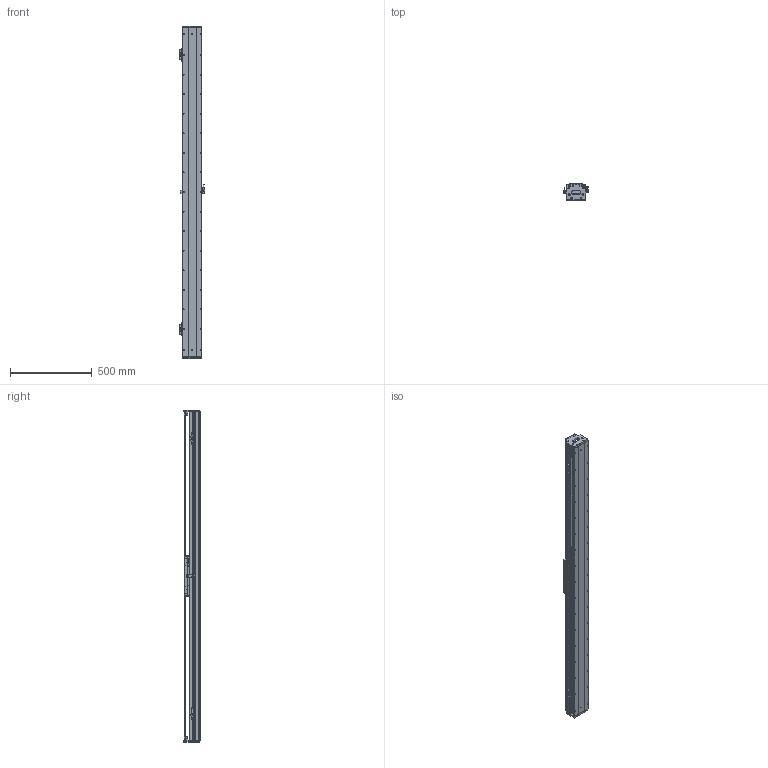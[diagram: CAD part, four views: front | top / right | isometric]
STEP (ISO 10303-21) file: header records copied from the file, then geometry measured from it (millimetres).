
FILE_DESCRIPTION (( 'STEP AP203' ), '1' );
FILE_NAME ('DKW119-C3-W060(T1680-L005-0.2).STEP', '2021-09-02T01:40:30', ( '微软用户' ), ( '微软中国' ), 'SwSTEP 2.0', 'SolidWorks 2018', '' );
FILE_SCHEMA (( 'CONFIG_CONTROL_DESIGN' ));
Length unit declared in the file: millimetre
Products named in the file (23): DKW119-C3-W060(T1680-L005-0.2); 10980-0001-003-00 嫖萇羲壽嘐隅釱; 11062-0001-004-00 DKW119傷啣; 嫖萇羲壽蚾饜极; 06652-0001-004-00 DKW120嶺輸菜輸; 嫖萇羲壽蚾饜极A; 12018-0001-002-00 詩湍; 12018-0001-001-00 菁釱; DKW-SG-GYP-H-00 嫖萇覜茼え; 砎蝶猾沭; MSB15-DG-U; RUS嫖掑喜; 12160-0000-003-00 DKW120詩湍嶺輸; DKW119-RU-DTJ-00 RU2黍杅芛盓殤; Ru2; 12160-0000-004-00  DKW120詩湍揤輸; 萇儂堤盄 ^DKW119-C3-W060(T1680-L005-0.2); RUS嫖掑郪璃; DKW119 单轴模组-拉钢带组件; CKMA01-W060-TRLxxx; CKM03-W060_00; pm-y65; DKW-HXJ-JY-00 遣喳砎蝶
Assembly tree (36 placements, depth 3):
  DKW119-C3-W060(T1680-L005-0.2)
    12018-0001-001-00 菁釱
    MSB15-DG-U  x2
    DKW119-RU-DTJ-00 RU2黍杅芛盓殤
    萇儂堤盄 ^DKW119-C3-W060(T1680-L005-0.2)
    CKMA01-W060-TRLxxx
    DKW119 单轴模组-拉钢带组件
      DKW-HXJ-JY-00 遣喳砎蝶  x4
      11062-0001-004-00 DKW119傷啣  x2
      06652-0001-004-00 DKW120嶺輸菜輸  x4
      12018-0001-002-00 詩湍
      砎蝶猾沭  x2
      12160-0000-003-00 DKW120詩湍嶺輸  x2
      12160-0000-004-00  DKW120詩湍揤輸  x2
    嫖萇羲壽蚾饜极
      pm-y65
      10980-0001-003-00 嫖萇羲壽嘐隅釱
    嫖萇羲壽蚾饜极A
      pm-y65  x2
      10980-0001-003-00 嫖萇羲壽嘐隅釱
    DKW-SG-GYP-H-00 嫖萇覜茼え
    RUS嫖掑郪璃
      RUS嫖掑喜
      Ru2
    CKM03-W060_00
Bounding box: 154.3 x 99 x 2036 mm (x, y, z)
Volume: 8959122.3 mm3; surface area: 2893655.7 mm2
Topology: 42 solids, 91 shells, 4350 faces, 11625 edges, 7418 vertices
Faces by surface type: plane 2162, cylinder 1523, cone 418, bspline 247
Entity records: 130929 total; most frequent: CARTESIAN_POINT 43700, ORIENTED_EDGE 17579, DIRECTION 16964, EDGE_CURVE 8830, VERTEX_POINT 5797, AXIS2_PLACEMENT_3D 5778, VECTOR 5408, LINE 5408
